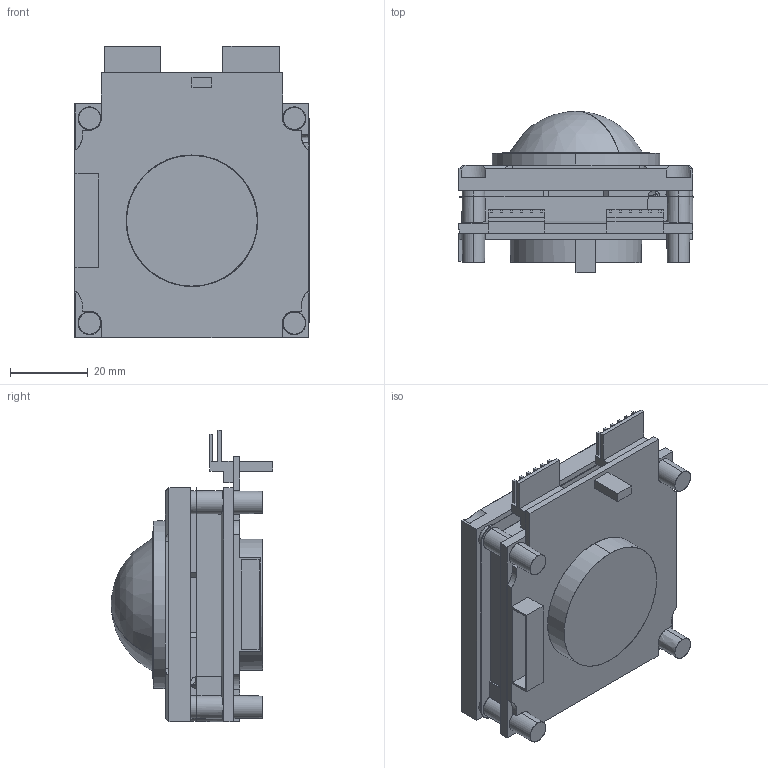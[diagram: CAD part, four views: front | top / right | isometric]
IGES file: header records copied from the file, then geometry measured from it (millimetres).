
Start section: SolidWorks IGES file using analytic representation for surfaces
Global section: file name: C:\Documents and Settings\rayc.STORMINTERFACE\Desktop\038 TRACKERBALL ASSY.IGS; native system: SolidWorks 2012; preprocessor: SolidWorks 2012; author: rayc; date: 120629.110426; units: millimetre
Bounding box: 60.05 x 41.39 x 74.75 mm (x, y, z)
Surface area: 31841 mm2 (no closed solid volume)
Topology: 0 solids, 0 shells, 789 faces, 8453 edges, 8452 vertices
Faces by surface type: bspline 527, revolution 262
